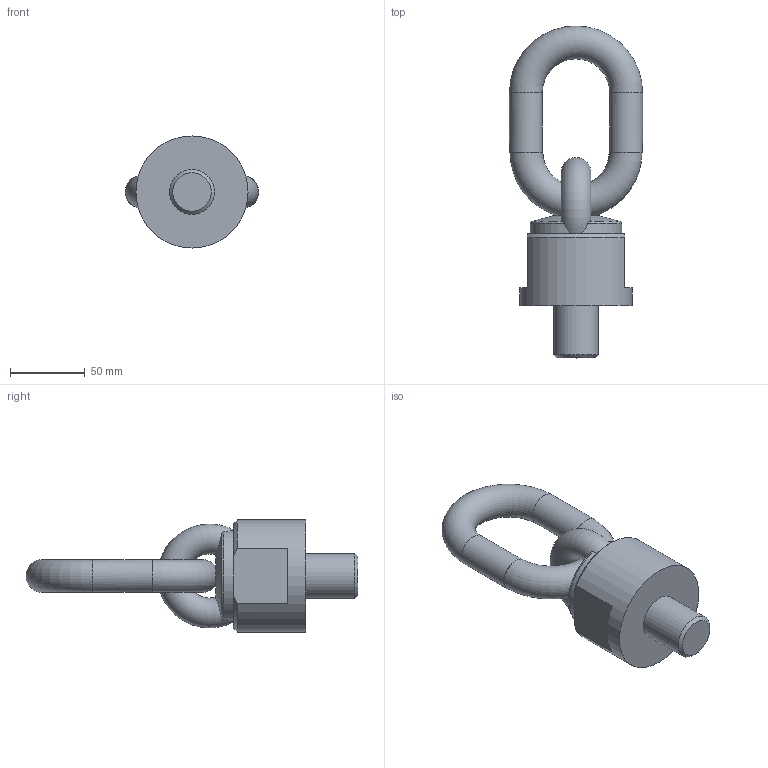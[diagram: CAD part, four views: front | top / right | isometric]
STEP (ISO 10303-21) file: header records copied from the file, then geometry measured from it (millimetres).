
FILE_DESCRIPTION( ( 'STEP AP203' ), '1' );
FILE_NAME( 'p:/temp/worker_2/temp/app_48_0201906261619376410681010e898ce_000000_00_00_000000/format_0/C8000503035.stp', '2019-06-26T14:19:38', ( '' ), ( '' ), ' ', 'PARTsolutions', ' ' );
FILE_SCHEMA( ( 'CONFIG_CONTROL_DESIGN' ) );
Length unit declared in the file: millimetre
Products named in the file (1): _C8000503035
Bounding box: 89 x 222 x 75 mm (x, y, z)
Volume: 396006 mm3; surface area: 48912.4 mm2
Topology: 1 solids, 1 shells, 28 faces, 70 edges, 44 vertices
Faces by surface type: plane 12, cylinder 6, torus 5, cone 5
Full cylindrical faces by diameter (mm): 22 x2, 30 x1, 75 x1
Entity records: 1211 total; most frequent: CARTESIAN_POINT 561, DIRECTION 122, ORIENTED_EDGE 116, EDGE_CURVE 58, AXIS2_PLACEMENT_3D 57, EDGE_LOOP 42, VERTEX_POINT 41, FACE_OUTER_BOUND 35
